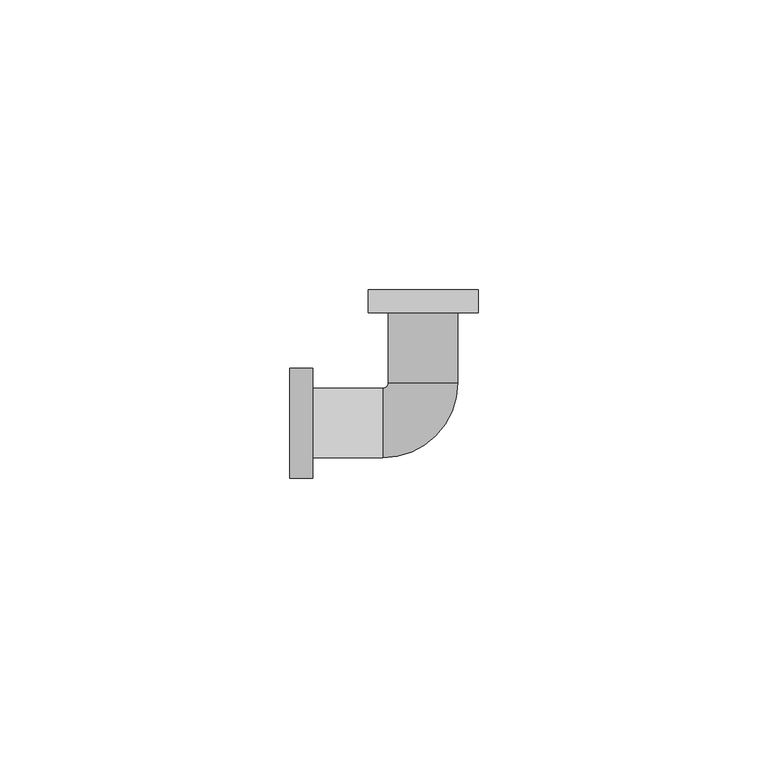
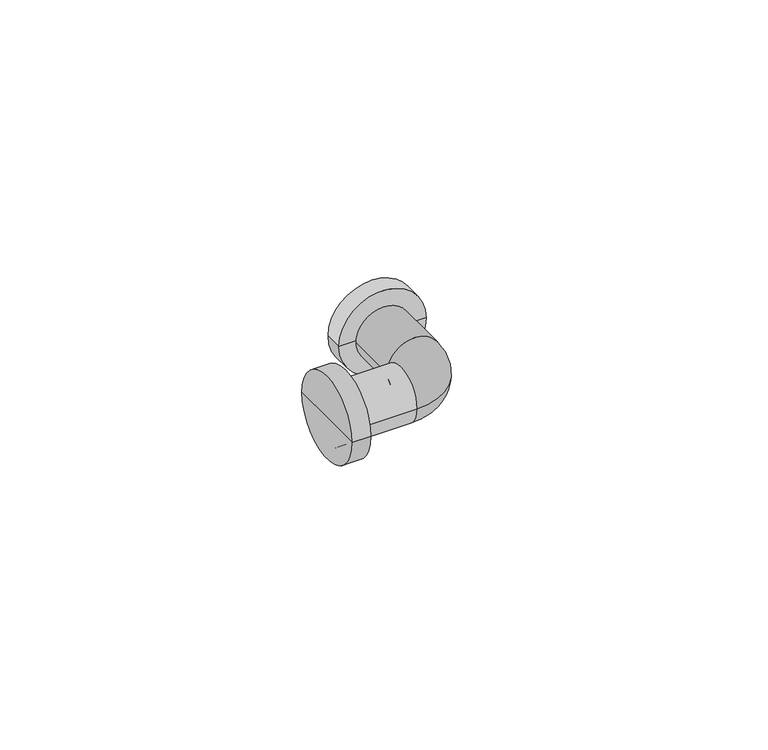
"""IFC4 building model written with IfcOpenShell, lengths in millimetres: pipe fitting geometry, KAN-therm Push kolano PPSU : KAN-therm Push kolano PPSU."""

from ifc_helpers import new_model, si_unit, point, frame, origin, place, context, project, spatial, circle_curve, ellipse_curve, trimmed, source, transform, mapped, element, save
from ifc_brep_helpers import plane_surface, cylinder_surface, revolved_surface, advanced_brep


def pipe_fitting_b1d8f7a5(model_context):
    return source(origin(), model_context, "Body", "AdvancedBrep", [
        advanced_brep(
        [(0.0, 19.0, 0.0), (-9.5, 19.0, 0.0), (9.5, 19.0, 0.0), (9.5, 23.0, 0.0), (-9.5, 23.0, 0.0), (0.0, 23.0, 0.0)],
        [
            (0, 1),
            (1, 2, circle_curve(frame((0.0, 19.0, 0.0), z_axis=(0.0, -1.0, 0.0), x_axis=(-1.0, 0.0, 0.0)), 9.5)),
            (2, 0),
            (2, 1, circle_curve(frame((0.0, 19.0, 0.0), z_axis=(0.0, -1.0, 0.0), x_axis=(-1.0, 0.0, 0.0)), 9.5)),
            (3, 4, circle_curve(frame((0.0, 23.0, 0.0), z_axis=(0.0, 1.0, 0.0), x_axis=(-1.0, 0.0, 0.0)), 9.5)),
            (4, 5),
            (5, 3),
            (4, 3, circle_curve(frame((0.0, 23.0, 0.0), z_axis=(0.0, 1.0, 0.0), x_axis=(-1.0, 0.0, 0.0)), 9.5)),
            (1, 4),
            (3, 2),
        ],
        [
            plane_surface(frame((0.0, 19.0, 0.0), z_axis=(0.0, -1.0, 0.0), x_axis=(-1.0, 0.0, 0.0))),
            plane_surface(frame((0.0, 23.0, 0.0), z_axis=(0.0, 1.0, 0.0), x_axis=(-1.0, 0.0, 0.0))),
            cylinder_surface(frame((0.0, 2000.0, 0.0), z_axis=(0.0, -1.0, 0.0), x_axis=(-1.0, 0.0, 0.0)), 9.5),
        ],
        [
            (0, [[1, 2, 3]]),
            (0, [[-3, 4, -1]]),
            (1, [[5, 6, 7]]),
            (1, [[8, -7, -6]]),
            (2, [[-2, 9, -5, 10]]),
            (2, [[-4, -10, -8, -9]]),
        ],
    ),
        advanced_brep(
        [(-23.0, -9.5, 0.0), (-23.0, 9.5, 0.0), (-19.0, 9.5, 0.0), (-19.0, -9.5, 0.0), (-23.0, 0.0, 0.0), (-19.0, 0.0, 0.0)],
        [
            (0, 1, circle_curve(frame((-23.0, 0.0, 0.0), z_axis=(1.0, 0.0, 0.0), x_axis=(0.0, 1.0, 0.0)), 9.5)),
            (1, 2),
            (2, 3, circle_curve(frame((-19.0, 0.0, 0.0), z_axis=(-1.0, 0.0, 0.0), x_axis=(0.0, 1.0, 0.0)), 9.5)),
            (3, 0),
            (1, 0, circle_curve(frame((-23.0, 0.0, 0.0), z_axis=(1.0, 0.0, 0.0), x_axis=(0.0, 1.0, 0.0)), 9.5)),
            (3, 2, circle_curve(frame((-19.0, 0.0, 0.0), z_axis=(-1.0, 0.0, 0.0), x_axis=(0.0, 1.0, 0.0)), 9.5)),
            (4, 1),
            (0, 4),
            (2, 5),
            (5, 3),
        ],
        [
            cylinder_surface(frame((2000.0, 0.0, 0.0), z_axis=(-1.0, 0.0, 0.0), x_axis=(0.0, 1.0, 0.0)), 9.5),
            plane_surface(frame((-23.0, 0.0, 0.0), z_axis=(-1.0, 0.0, 0.0), x_axis=(0.0, 1.0, 0.0))),
            plane_surface(frame((-19.0, 0.0, 0.0), z_axis=(1.0, 0.0, 0.0), x_axis=(0.0, 1.0, 0.0))),
        ],
        [
            (0, [[1, 2, 3, 4]]),
            (0, [[5, -4, 6, -2]]),
            (1, [[7, -1, 8]]),
            (1, [[-8, -5, -7]]),
            (2, [[-3, 9, 10]]),
            (2, [[-6, -10, -9]]),
        ],
    ),
        advanced_brep(
        [(-6.0, 23.0, 0.0), (6.0, 23.0, 0.0), (-23.0, 6.0, 0.0), (-23.0, -6.0, 0.0), (-7.0, -6.0, 0.0), (-7.0, 6.0, 0.0), (-6.0, 7.0, 0.0), (6.0, 7.0, 0.0)],
        [
            (0, 1, circle_curve(frame((0.0, 23.0, 0.0), z_axis=(0.0, 1.0, 0.0), x_axis=(1.0, 0.0, 0.0)), 6.0)),
            (1, 0, circle_curve(frame((0.0, 23.0, 0.0), z_axis=(0.0, 1.0, 0.0), x_axis=(1.0, 0.0, 0.0)), 6.0)),
            (2, 3, circle_curve(frame((-23.0, 0.0, 0.0), z_axis=(-1.0, 0.0, 0.0), x_axis=(0.0, -1.0, 0.0)), 6.0)),
            (3, 2, circle_curve(frame((-23.0, 0.0, 0.0), z_axis=(-1.0, 0.0, 0.0), x_axis=(0.0, -1.0, 0.0)), 6.0)),
            (4, 5, circle_curve(frame((-7.0, 0.0, 0.0), z_axis=(-1.0, 0.0, 0.0), x_axis=(0.0, -1.0, 0.0)), 6.0)),
            (5, 2),
            (3, 4),
            (5, 4, circle_curve(frame((-7.0, 0.0, 0.0), z_axis=(-1.0, 0.0, 0.0), x_axis=(0.0, -1.0, 0.0)), 6.0)),
            (0, 6),
            (6, 7, circle_curve(frame((0.0, 7.0, 0.0), z_axis=(0.0, 1.0, 0.0), x_axis=(1.0, 0.0, 0.0)), 6.0)),
            (7, 1),
            (7, 6, circle_curve(frame((0.0, 7.0, 0.0), z_axis=(0.0, 1.0, 0.0), x_axis=(1.0, 0.0, 0.0)), 6.0)),
            (4, 7, circle_curve(frame((-7.0, 7.0, 0.0), z_axis=(0.0, 0.0, 1.0), x_axis=(1.0, 0.0, 0.0)), 13.0)),
            (6, 5, circle_curve(frame((-7.0, 7.0, 0.0), z_axis=(0.0, 0.0, -1.0), x_axis=(1.0, 0.0, 0.0)), 1.0)),
        ],
        [
            plane_surface(frame((0.0, 23.0, 0.0), z_axis=(0.0, 1.0, 0.0), x_axis=(0.0, 0.0, 1.0))),
            plane_surface(frame((-23.0, 0.0, 0.0), z_axis=(-1.0, 0.0, 0.0), x_axis=(0.0, 0.0, 1.0))),
            cylinder_surface(frame((-7.0, 0.0, 0.0), z_axis=(1.0, 0.0, 0.0), x_axis=(0.0, -1.0, 0.0)), 6.0),
            cylinder_surface(frame((0.0, 23.0, 0.0), z_axis=(0.0, 1.0, 0.0), x_axis=(1.0, 0.0, 0.0)), 6.0),
            revolved_surface(trimmed(ellipse_curve(frame((0.0, 7.0, 0.0), z_axis=(0.0, 1.0, 0.0), x_axis=(1.0, 0.0, 0.0)), 6.0, 6.0), [point((-6.0, 7.0, 0.0))], [point((6.0, 7.0, 0.0))], True, "CARTESIAN"), (-7.0, 7.0, 0.0), (0.0, 0.0, -1.0)),
            revolved_surface(trimmed(ellipse_curve(frame((0.0, 7.0, 0.0), z_axis=(0.0, 1.0, 0.0), x_axis=(1.0, 0.0, 0.0)), 6.0, 6.0), [point((6.0, 7.0, 0.0))], [point((-6.0, 7.0, 0.0))], True, "CARTESIAN"), (-7.0, 7.0, 0.0), (0.0, 0.0, -1.0)),
        ],
        [
            (0, [[1, 2]]),
            (1, [[3, 4]]),
            (2, [[5, 6, -4, 7]]),
            (2, [[8, -7, -3, -6]]),
            (3, [[-1, 9, 10, 11]]),
            (3, [[-2, -11, 12, -9]]),
            (4, [[13, -10, 14, -5]]),
            (5, [[-14, -12, -13, -8]]),
        ],
    ),
    ])


if __name__ == "__main__":
    model = new_model("IFC4")
    model_context = context("Model", 3, world=origin())
    ifc_project = project(units=[si_unit("LENGTHUNIT", "METRE", prefix="MILLI")], contexts=[model_context])
    site = spatial("IfcSite", under=ifc_project)
    building = spatial("IfcBuilding", under=site)
    placement = place(None, origin())
    pipe_fitting_shape = pipe_fitting_b1d8f7a5(model_context)
    element("IfcPipeFitting", 1, ObjectType="KAN-therm Push kolano PPSU : KAN-therm Push kolano PPSU", at=placement, inside=building, context=model_context, shape_type="MappedRepresentation", body=[
        mapped(pipe_fitting_shape, transform((0.0, 0.0, 0.0), x_axis=(1.0, 0.0, 0.0), y_axis=(0.0, 1.0, 0.0), z_axis=(0.0, 0.0, 1.0))),
    ])
    save(model, "model.ifc")
